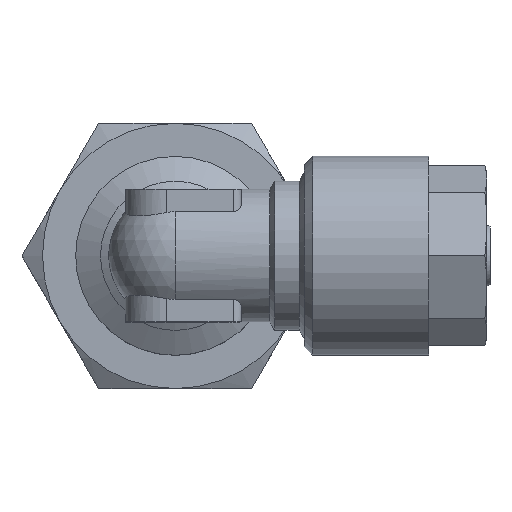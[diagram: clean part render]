
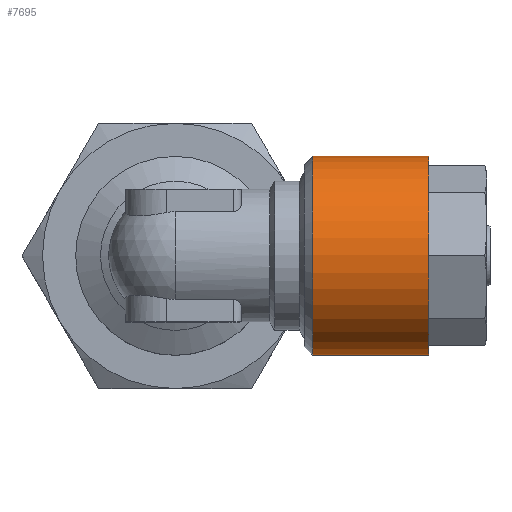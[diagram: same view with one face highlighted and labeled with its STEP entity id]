
A CAD part, top view. The second image highlights one B-rep face of the part: STEP entity #7695.
In plain terms, the highlighted cylindrical face has radius 6 mm (diameter 12 mm), a full revolution.
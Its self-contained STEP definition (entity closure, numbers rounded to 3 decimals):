
#2392=CYLINDRICAL_SURFACE('',#7429,6.);
#2519=ORIENTED_EDGE('',*,*,#3148,.F.);
#2520=ORIENTED_EDGE('',*,*,#3149,.T.);
#2864=CIRCLE('',#7428,6.);
#2865=CIRCLE('',#7430,6.);
#2978=VERTEX_POINT('',#4341);
#2979=VERTEX_POINT('',#4344);
#3148=EDGE_CURVE('',#2978,#2978,#2864,.T.);
#3149=EDGE_CURVE('',#2979,#2979,#2865,.T.);
#3342=EDGE_LOOP('',(#2519));
#3343=EDGE_LOOP('',(#2520));
#3519=FACE_BOUND('',#3342,.T.);
#3520=FACE_BOUND('',#3343,.T.);
#3787=DIRECTION('',(0.,1.,0.));
#3788=DIRECTION('',(0.,0.,-6.));
#3789=DIRECTION('',(0.,1.,0.));
#3790=DIRECTION('',(1.,0.,0.));
#3791=DIRECTION('',(0.,1.,0.));
#3792=DIRECTION('',(0.,0.,6.));
#4341=CARTESIAN_POINT('',(0.,7.5,-6.));
#4342=CARTESIAN_POINT('',(0.,7.5,0.));
#4343=CARTESIAN_POINT('',(0.,0.5,0.));
#4344=CARTESIAN_POINT('',(0.,0.5,6.));
#4345=CARTESIAN_POINT('',(0.,0.5,0.));
#7428=AXIS2_PLACEMENT_3D('',#4342,#3787,#3788);
#7429=AXIS2_PLACEMENT_3D('',#4343,#3789,#3790);
#7430=AXIS2_PLACEMENT_3D('',#4345,#3791,#3792);
#7695=ADVANCED_FACE('',(#3519,#3520),#2392,.T.);
